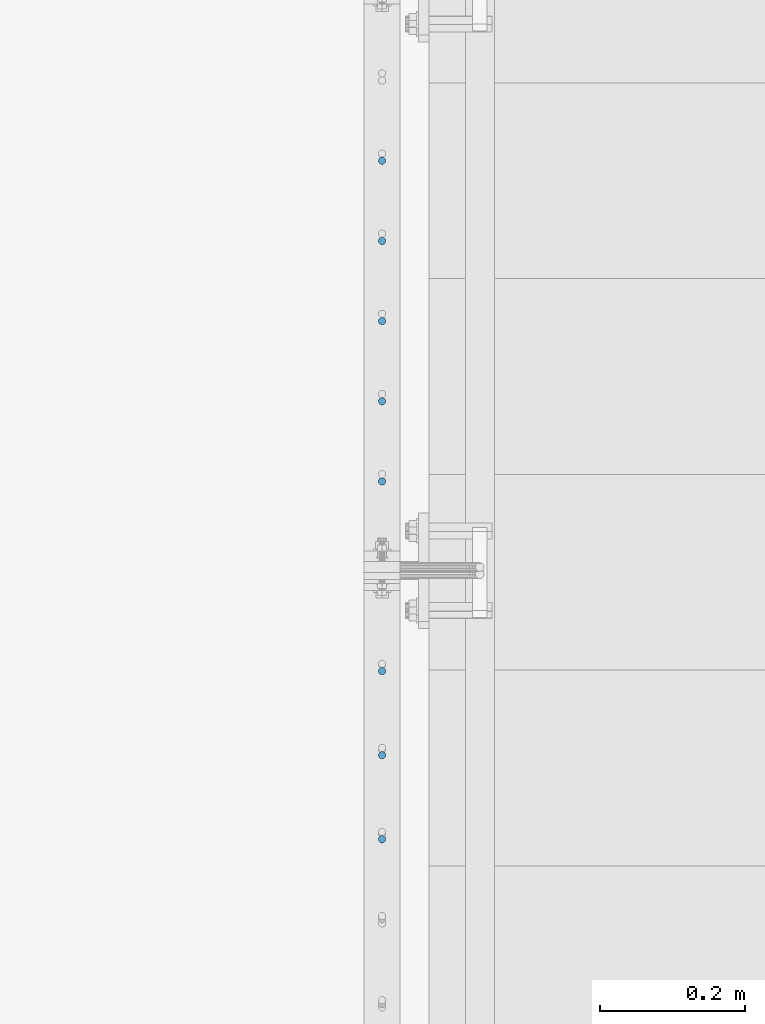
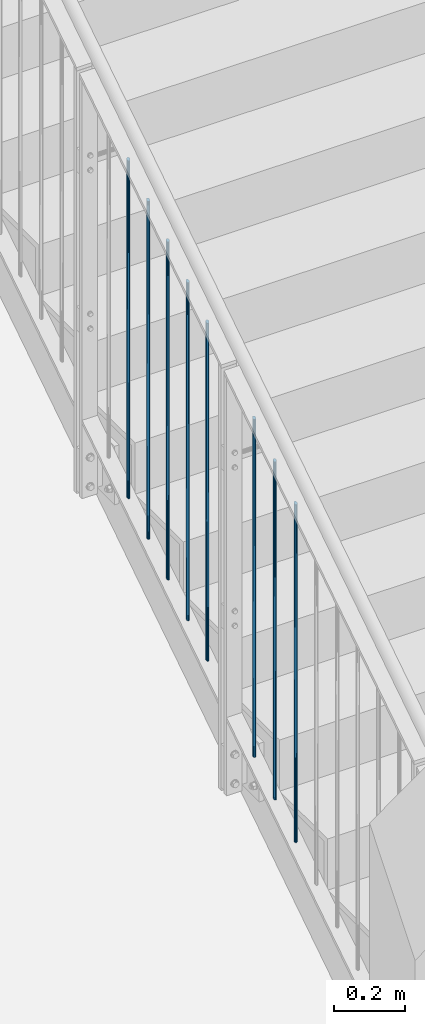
# One storey, part 13 of 296: 8 columns.
"""IFC2X3 building model written with IfcOpenShell, lengths in millimetres."""

from ifc_helpers import new_model, entity, si_unit, converted_unit, frame, origin, origin_with_axes, origin_2d, place, context, project, spatial, circle, extrude, clip, halfspace, material, element, save


model = new_model("IFC2X3")

# Units and contexts
model_context = context("Model", 3, precision=1e-09, world=origin_with_axes())
ifc_project = project(units=[si_unit("LENGTHUNIT", "METRE", prefix="MILLI"), si_unit("AREAUNIT", "SQUARE_METRE"), si_unit("VOLUMEUNIT", "CUBIC_METRE"), converted_unit("PLANEANGLEUNIT", "DEGREE", entity("IfcPlaneAngleMeasure", 0.01745329), si_unit("PLANEANGLEUNIT", "RADIAN"), dimensions=[0, 0, 0, 0, 0, 0, 0])], contexts=[model_context])

# Site, building, storey
site_placement = place(None, origin_with_axes())
site = spatial("IfcSite", under=ifc_project, at=site_placement, Name="TZD-S?d | Treppenhausgel?nder", CompositionType="ELEMENT")
building_placement = place(site_placement, origin_with_axes())
building = spatial("IfcBuilding", under=site, at=building_placement, Name="Struktur 1", CompositionType="ELEMENT")
storey_placement = place(building_placement, origin_with_axes())
storey = spatial("IfcBuildingStorey", under=building, at=storey_placement, Name="Default Storey", CompositionType="ELEMENT", Elevation=0.0)

# Columns
ifc_material = material(Name="S235JR")
column_1_placement = place(None, frame((-45.0, -2513.6111111, 1161.732286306), z_axis=(0.0, 0.0, 1.0), x_axis=(0.0, 1.0, 0.0)))
element("IfcColumn", 1, at=column_1_placement, inside=storey, material=ifc_material, Name="-", ObjectType="-", context=model_context, shape_type="Clipping", body=[
    clip(clip(extrude(circle(Radius=5.0, at=origin_2d()), origin(), (0.0, 0.0, 1.0), 1184.937475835), halfspace(frame((704.145499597, -45.0, 1627.370671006), z_axis=(0.544258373, 0.0, -0.83891765), x_axis=(0.0, 1.0, 0.0)), True)), halfspace(frame((1232.033030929, -45.0, 813.686970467), z_axis=(-0.544258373, 0.0, 0.83891765), x_axis=(0.0, -1.0, 0.0)), True)),
])
column_2_placement = place(None, frame((-45.0, -2629.7222222, 1086.403743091), z_axis=(0.0, 0.0, 1.0), x_axis=(0.0, 1.0, 0.0)))
element("IfcColumn", 2, at=column_2_placement, inside=storey, material=ifc_material, Name="-", ObjectType="-", context=model_context, shape_type="Clipping", body=[
    clip(clip(extrude(circle(Radius=5.0, at=origin_2d()), origin(), (0.0, 0.0, 1.0), 1184.937475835), halfspace(frame((820.256610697, -45.0, 1702.69921422), z_axis=(0.544258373, 0.0, -0.83891765), x_axis=(0.0, 1.0, 0.0)), True)), halfspace(frame((1348.144142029, -45.0, 889.015513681), z_axis=(-0.544258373, 0.0, 0.83891765), x_axis=(0.0, -1.0, 0.0)), True)),
])
column_3_placement = place(None, frame((-45.0, -2745.8333333, 1011.075199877), z_axis=(0.0, 0.0, 1.0), x_axis=(0.0, 1.0, 0.0)))
element("IfcColumn", 3, at=column_3_placement, inside=storey, material=ifc_material, Name="-", ObjectType="-", context=model_context, shape_type="Clipping", body=[
    clip(clip(extrude(circle(Radius=5.0, at=origin_2d()), origin(), (0.0, 0.0, 1.0), 1184.937475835), halfspace(frame((936.367721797, -45.0, 1778.027757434), z_axis=(0.544258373, 0.0, -0.83891765), x_axis=(0.0, 1.0, 0.0)), True)), halfspace(frame((1464.255253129, -45.0, 964.344056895), z_axis=(-0.544258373, 0.0, 0.83891765), x_axis=(0.0, -1.0, 0.0)), True)),
])
column_4_placement = place(None, frame((-45.0, -1808.9285714, 1618.90394405), z_axis=(0.0, 0.0, 1.0), x_axis=(0.0, 1.0, 0.0)))
element("IfcColumn", 4, at=column_4_placement, inside=storey, material=ifc_material, Name="-", ObjectType="-", context=model_context, shape_type="Clipping", body=[
    clip(clip(extrude(circle(Radius=5.0, at=origin_2d()), origin(), (0.0, 0.0, 1.0), 1184.937475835), halfspace(frame((-0.537040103, -45.0, 1170.199013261), z_axis=(0.544258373, 0.0, -0.83891765), x_axis=(0.0, 1.0, 0.0)), True)), halfspace(frame((527.350491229, -45.0, 356.515312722), z_axis=(-0.544258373, 0.0, 0.83891765), x_axis=(0.0, -1.0, 0.0)), True)),
])
column_5_placement = place(None, frame((-45.0, -1919.6428571, 1547.076659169), z_axis=(0.0, 0.0, 1.0), x_axis=(0.0, 1.0, 0.0)))
element("IfcColumn", 5, at=column_5_placement, inside=storey, material=ifc_material, Name="-", ObjectType="-", context=model_context, shape_type="Clipping", body=[
    clip(clip(extrude(circle(Radius=5.0, at=origin_2d()), origin(), (0.0, 0.0, 1.0), 1184.937475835), halfspace(frame((638.064776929, -45.0, 428.342597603), z_axis=(-0.544258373, 0.0, 0.83891765), x_axis=(0.0, -1.0, 0.0)), True)), halfspace(frame((110.177245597, -45.0, 1242.026298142), z_axis=(0.544258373, 0.0, -0.83891765), x_axis=(0.0, 1.0, 0.0)), True)),
])
column_6_placement = place(None, frame((-45.0, -2030.3571428, 1475.249374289), z_axis=(0.0, 0.0, 1.0), x_axis=(0.0, 1.0, 0.0)))
element("IfcColumn", 6, at=column_6_placement, inside=storey, material=ifc_material, Name="-", ObjectType="-", context=model_context, shape_type="Clipping", body=[
    clip(clip(extrude(circle(Radius=5.0, at=origin_2d()), origin(), (0.0, 0.0, 1.0), 1184.937475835), halfspace(frame((220.891531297, -45.0, 1313.853583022), z_axis=(0.544258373, 0.0, -0.83891765), x_axis=(0.0, 1.0, 0.0)), True)), halfspace(frame((748.779062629, -45.0, 500.169882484), z_axis=(-0.544258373, 0.0, 0.83891765), x_axis=(0.0, -1.0, 0.0)), True)),
])
column_7_placement = place(None, frame((-45.0, -2141.0714285, 1403.422089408), z_axis=(0.0, 0.0, 1.0), x_axis=(0.0, 1.0, 0.0)))
element("IfcColumn", 7, at=column_7_placement, inside=storey, material=ifc_material, Name="-", ObjectType="-", context=model_context, shape_type="Clipping", body=[
    clip(clip(extrude(circle(Radius=5.0, at=origin_2d()), origin(), (0.0, 0.0, 1.0), 1184.937475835), halfspace(frame((859.493348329, -45.0, 571.997167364), z_axis=(-0.544258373, 0.0, 0.83891765), x_axis=(0.0, -1.0, 0.0)), True)), halfspace(frame((331.605816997, -45.0, 1385.680867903), z_axis=(0.544258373, 0.0, -0.83891765), x_axis=(0.0, 1.0, 0.0)), True)),
])
column_8_placement = place(None, frame((-45.0, -2251.7857142, 1331.594804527), z_axis=(0.0, 0.0, 1.0), x_axis=(0.0, 1.0, 0.0)))
element("IfcColumn", 8, at=column_8_placement, inside=storey, material=ifc_material, Name="-", ObjectType="-", context=model_context, shape_type="Clipping", body=[
    clip(clip(extrude(circle(Radius=5.0, at=origin_2d()), origin(), (0.0, 0.0, 1.0), 1184.937475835), halfspace(frame((442.320102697, -45.0, 1457.508152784), z_axis=(0.544258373, 0.0, -0.83891765), x_axis=(0.0, 1.0, 0.0)), True)), halfspace(frame((970.207634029, -45.0, 643.824452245), z_axis=(-0.544258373, 0.0, 0.83891765), x_axis=(0.0, -1.0, 0.0)), True)),
])

save(model, "model.ifc")
